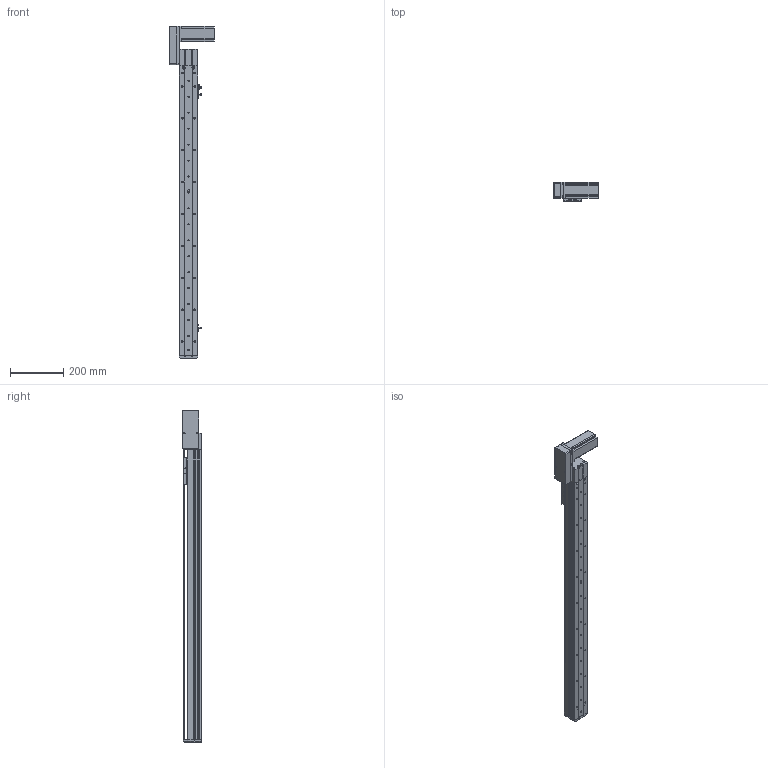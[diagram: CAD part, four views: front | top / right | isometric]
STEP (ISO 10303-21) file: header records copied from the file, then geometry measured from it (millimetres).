
FILE_DESCRIPTION (( 'STEP AP214' ), '1' );
FILE_NAME ('KSD68BS-S900-MRB-CM.STEP', '2019-08-22T06:01:37', ( '微软用户' ), ( '微软中国' ), 'SwSTEP 2.0', 'SolidWorks 2014', '' );
FILE_SCHEMA (( 'AUTOMOTIVE_DESIGN' ));
Length unit declared in the file: millimetre
Products named in the file (11): KSD68BS-S900-MRB-CM; 悵誘欶奻狟殏; 68宽马达安装板连板上折同步带; 68宽单导轨半封闭同步带主动轮座右; 68单导轨同步带半封闭端板; KSD68BS 900俴最裔啣圉猾敕; 覜茼え68遵圉猾敕; KSD68BS半封闭同步带传动导轨座; U倰嫖萇EEㄜSX672; 台达ECMA－C20604AS伺服电机（400W); KSD68BS 900俴最菁啣圉猾敕
Assembly tree (12 placements, depth 2):
  KSD68BS-S900-MRB-CM
    KSD68BS 900俴最菁啣圉猾敕
    台达ECMA－C20604AS伺服电机（400W)
    U倰嫖萇EEㄜSX672  x3
    KSD68BS半封闭同步带传动导轨座
    覜茼え68遵圉猾敕
    KSD68BS 900俴最裔啣圉猾敕
    68单导轨同步带半封闭端板
    68宽单导轨半封闭同步带主动轮座右
    68宽马达安装板连板上折同步带
    悵誘欶奻狟殏
Bounding box: 167.2 x 70.5 x 1249.5 mm (x, y, z)
Volume: 2244013.7 mm3; surface area: 782992.8 mm2
Topology: 13 solids, 13 shells, 1402 faces, 4038 edges, 2626 vertices
Faces by surface type: cylinder 704, plane 615, cone 83
Entity records: 51985 total; most frequent: CARTESIAN_POINT 10002, ORIENTED_EDGE 6828, DIRECTION 6724, EDGE_CURVE 3414, AXIS2_PLACEMENT_3D 2412, VERTEX_POINT 2250, VECTOR 1900, LINE 1900
